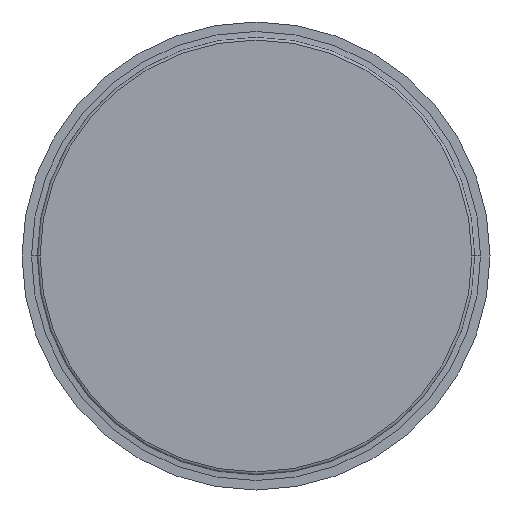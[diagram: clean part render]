
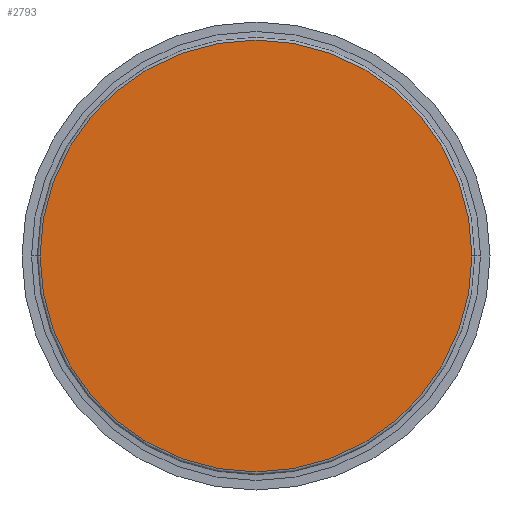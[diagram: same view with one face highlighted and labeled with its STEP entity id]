
A CAD part, front view. The second image highlights one B-rep face of the part: STEP entity #2793.
In plain terms, the highlighted planar face has unit normal (0, -1, 0).
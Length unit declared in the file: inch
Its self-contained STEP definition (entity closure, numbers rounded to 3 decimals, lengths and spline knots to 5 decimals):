
#11 = VERTEX_POINT ( 'NONE', #329 ) ;
#25 = EDGE_LOOP ( 'NONE', ( #337, #338 ) ) ;
#329 = CARTESIAN_POINT ( 'NONE',  ( -1.84945, -1.475, 1.00579 ) ) ;
#337 = ORIENTED_EDGE ( 'NONE', *, *, #455, .T. ) ;
#338 = ORIENTED_EDGE ( 'NONE', *, *, #404, .T. ) ;
#404 = EDGE_CURVE ( 'NONE', #11, #2387, #2564, .T. ) ;
#455 = EDGE_CURVE ( 'NONE', #2387, #11, #2656, .T. ) ;
#1209 = CARTESIAN_POINT ( 'NONE',  ( -0.29945, -1.475, 1.00579 ) ) ;
#1210 = DIRECTION ( 'NONE',  ( 0., -1., 0. ) ) ;
#1211 = DIRECTION ( 'NONE',  ( 1., 0., 0. ) ) ;
#1362 = CARTESIAN_POINT ( 'NONE',  ( -0.29945, -1.475, 1.00579 ) ) ;
#1363 = DIRECTION ( 'NONE',  ( 0., -1., 0. ) ) ;
#1364 = DIRECTION ( 'NONE',  ( 1., 0., 0. ) ) ;
#1797 = CARTESIAN_POINT ( 'NONE',  ( 1.25055, -1.475, 1.00579 ) ) ;
#1959 = CARTESIAN_POINT ( 'NONE',  ( -0.29945, -1.475, 1.00579 ) ) ;
#1962 = FACE_OUTER_BOUND ( 'NONE', #25, .T. ) ;
#1963 = PLANE ( 'NONE',  #2235 ) ;
#1965 = DIRECTION ( 'NONE',  ( 0., 1., 0. ) ) ;
#1966 = DIRECTION ( 'NONE',  ( 1., 0., 0. ) ) ;
#2235 = AXIS2_PLACEMENT_3D ( 'NONE', #1959, #1965, #1966 ) ;
#2387 = VERTEX_POINT ( 'NONE', #1797 ) ;
#2564 = CIRCLE ( 'NONE', #2569, 1.55 ) ;
#2569 = AXIS2_PLACEMENT_3D ( 'NONE', #1209, #1210, #1211 ) ;
#2656 = CIRCLE ( 'NONE', #2659, 1.55 ) ;
#2659 = AXIS2_PLACEMENT_3D ( 'NONE', #1362, #1363, #1364 ) ;
#2793 = ADVANCED_FACE ( 'NONE', ( #1962 ), #1963, .F. ) ;
